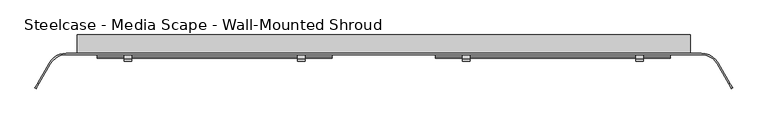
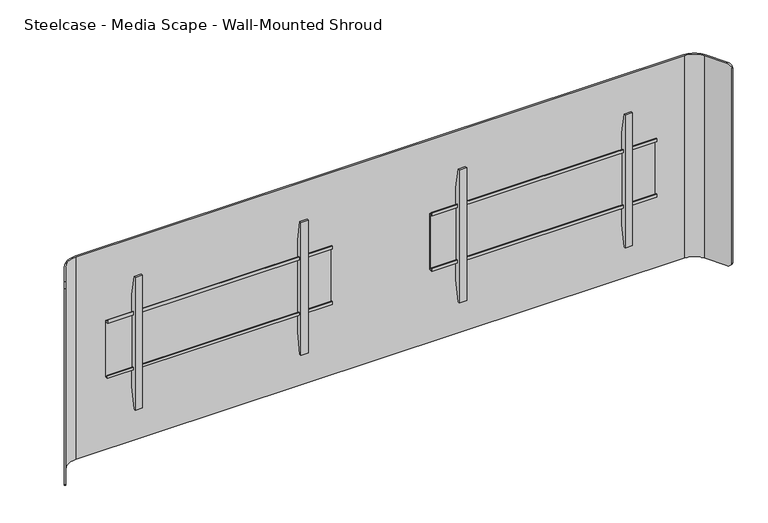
"""IFC4 building model written with IfcOpenShell, lengths in millimetres: furniture geometry, Steelcase - Media Scape - Wall-Mounted Shroud : Dual - 46in with CODEC Case."""

from ifc_helpers import new_model, si_unit, frame, origin, place, context, project, spatial, polyline, circle_curve, outline, extrude, source, transform, mapped, element, save
from ifc_brep_helpers import plane_surface, cylinder_surface, revolved_surface, advanced_brep


def steelcase_media_scape_wall_mounted_shroud_3b4f5210(model_context):
    return source(origin(), model_context, "Body", "SolidModel", [
        extrude(outline(polyline([(1534.414, 1061.6247345), (1534.414, -1061.6247345), (912.1648167, -1061.6247345), (912.1648167, 1061.6247345), (1534.414, 1061.6247345)]), holes=[polyline([(1532.9407333, -1060.1006996), (1532.9407333, -999.6488663), (1470.9139516, -999.6488663), (1470.9139516, 998.0613663), (1532.9407333, 998.0613663), (1532.9407333, 1060.1006996), (913.6887789, 1060.1006996), (913.6887789, 998.0613663), (935.9772924, 998.0613663), (935.9772924, -999.6488663), (913.6887789, -999.6488663), (913.6887789, -1060.1006996), (1532.9407333, -1060.1006996)])]), frame((0.0, -25.4, 0.0), z_axis=(0.0, 1.0, 0.0), x_axis=(0.0, 0.0, 1.0)), (0.0, 0.0, 1.0), 63.5005882),
        extrude(outline(polyline([(-42.4942785, 1326.5504726), (-42.4942785, 1338.5645649), (-39.8272175, 1338.5645649), (-39.8272175, 1329.217461), (-29.9720009, 1329.217461), (-29.9720009, 1114.8922438), (-42.3164551, 1114.8922438), (-42.3164551, 1125.8142515), (-39.649394, 1125.8142515), (-39.649394, 1117.557052), (-32.6531824, 1117.557052), (-32.6531824, 1326.5504726), (-42.4942785, 1326.5504726)])), frame((179.451, 0.0, 0.0), z_axis=(1.0, 0.0, 0.0), x_axis=(0.0, 1.0, 0.0)), (0.0, 0.0, 1.0), 812.8),
        extrude(outline(polyline([(-32.6531824, 1397.4971148), (-32.6531824, 1045.6825607), (-46.5049349, 968.0546949), (-53.3399828, 968.0546949), (-53.3399828, 1476.0547192), (-46.5050076, 1476.0547192), (-32.6531824, 1397.4971148)])), frame((273.052426, 0.0, 0.0), z_axis=(1.0, 0.0, 0.0), x_axis=(0.0, 1.0, 0.0)), (0.0, 0.0, 1.0), 26.1592872),
        extrude(outline(polyline([(-32.6531824, 1397.4971148), (-32.6531824, 1045.6825607), (-46.5049349, 968.0546949), (-53.3399828, 968.0546949), (-53.3399828, 1476.0547192), (-46.5050076, 1476.0547192), (-32.6531824, 1397.4971148)])), frame((872.4902868, 0.0, 0.0), z_axis=(1.0, 0.0, 0.0), x_axis=(0.0, 1.0, 0.0)), (0.0, 0.0, 1.0), 26.1592872),
        extrude(outline(polyline([(-42.4942785, 1326.5504726), (-42.4942785, 1338.5645649), (-39.8272175, 1338.5645649), (-39.8272175, 1329.217461), (-29.9720009, 1329.217461), (-29.9720009, 1114.8922438), (-42.3164551, 1114.8922438), (-42.3164551, 1125.8142515), (-39.649394, 1125.8142515), (-39.649394, 1117.557052), (-32.6531824, 1117.557052), (-32.6531824, 1326.5504726), (-42.4942785, 1326.5504726)])), frame((-992.251, 0.0, 0.0), z_axis=(1.0, 0.0, 0.0), x_axis=(0.0, 1.0, 0.0)), (0.0, 0.0, 1.0), 812.8),
        extrude(outline(polyline([(-32.6531824, 1397.4971148), (-32.6531824, 1045.6825607), (-46.5049349, 968.0546949), (-53.3399828, 968.0546949), (-53.3399828, 1476.0547192), (-46.5050076, 1476.0547192), (-32.6531824, 1397.4971148)])), frame((-299.2117132, 0.0, 0.0), z_axis=(1.0, 0.0, 0.0), x_axis=(0.0, 1.0, 0.0)), (0.0, 0.0, 1.0), 26.1592872),
        extrude(outline(polyline([(-32.6531824, 1397.4971148), (-32.6531824, 1045.6825607), (-46.5049349, 968.0546949), (-53.3399828, 968.0546949), (-53.3399828, 1476.0547192), (-46.5050076, 1476.0547192), (-32.6531824, 1397.4971148)])), frame((-898.649574, 0.0, 0.0), z_axis=(1.0, 0.0, 0.0), x_axis=(0.0, 1.0, 0.0)), (0.0, 0.0, 1.0), 26.1592872),
        advanced_brep(
        [(-1154.5586135, -61.722, 1610.614), (-1099.566002, -29.9720009, 1610.614), (1099.566, -29.9720009, 1610.614), (1154.5586135, -61.722, 1610.614), (1194.679586, -131.2135628, 1610.614), (1198.6390541, -128.9275628, 1610.614), (1158.5180817, -59.436, 1610.614), (1099.566002, -25.4, 1610.614), (-1099.566, -25.4, 1610.614), (-1158.5180817, -59.436, 1610.614), (-1198.6421659, -128.9329524, 1610.614), (-1194.6826977, -131.2189524, 1610.614), (-1158.5180817, -59.436, 835.914), (-1099.566002, -25.4, 835.914), (1099.566, -25.4, 835.914), (1158.5180817, -59.436, 835.914), (1198.6906629, -129.0169518, 835.914), (1194.7311948, -131.3029518, 835.914), (1154.5586135, -61.722, 835.914), (1099.566002, -29.9720009, 835.914), (-1099.566, -29.9720009, 835.914), (-1154.5586135, -61.722, 835.914), (-1194.7454014, -131.3275584, 835.914), (-1198.7048695, -129.0415584, 835.914), (-1208.2090632, -145.5033047, 849.5242766), (-1208.2090632, -145.5033047, 1596.6227735), (-1204.2495951, -147.7893047, 1596.6227735), (-1204.2495951, -147.7893047, 849.5242766), (1204.2270866, -147.7503189, 849.4756893), (1204.2270866, -147.7503189, 1596.7433849), (1208.1865547, -145.4643189, 1596.7433849), (1208.1865547, -145.4643189, 849.4756893)],
        [
            (0, 1, circle_curve(frame((-1099.566002, -93.4719991, 1610.614), z_axis=(0.0, 0.0, -1.0), x_axis=(0.0, 1.0, 0.0)), 63.4999981)),
            (1, 2),
            (2, 3, circle_curve(frame((1099.566002, -93.4719991, 1610.614), z_axis=(0.0, 0.0, -1.0), x_axis=(0.0, 1.0, 0.0)), 63.4999981)),
            (3, 4),
            (4, 5),
            (5, 6),
            (6, 7, circle_curve(frame((1099.5660004, -93.472, 1610.614), z_axis=(0.0, 0.0, 1.0), x_axis=(0.0, 1.0, 0.0)), 68.072)),
            (7, 8),
            (8, 9, circle_curve(frame((-1099.5660004, -93.472, 1610.614), z_axis=(0.0, 0.0, 1.0), x_axis=(0.0, 1.0, 0.0)), 68.072)),
            (9, 10),
            (10, 11),
            (11, 0),
            (12, 13, circle_curve(frame((-1099.5660004, -93.472, 835.914), z_axis=(0.0, 0.0, -1.0), x_axis=(0.0, 1.0, 0.0)), 68.072)),
            (13, 14),
            (14, 15, circle_curve(frame((1099.5660004, -93.472, 835.914), z_axis=(0.0, 0.0, -1.0), x_axis=(0.0, 1.0, 0.0)), 68.072)),
            (15, 16),
            (16, 17),
            (17, 18),
            (18, 19, circle_curve(frame((1099.566002, -93.4719991, 835.914), z_axis=(0.0, 0.0, 1.0), x_axis=(0.0, 1.0, 0.0)), 63.4999981)),
            (19, 20),
            (20, 21, circle_curve(frame((-1099.566002, -93.4719991, 835.914), z_axis=(0.0, 0.0, 1.0), x_axis=(0.0, 1.0, 0.0)), 63.4999981)),
            (21, 22),
            (22, 23),
            (23, 12),
            (0, 21),
            (20, 1),
            (8, 13),
            (12, 9),
            (23, 24, circle_curve(frame((-1198.7048695, -129.0415584, 855.9928872), z_axis=(-0.8660254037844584, 0.49999999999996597, 0.0), x_axis=(-0.49999999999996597, -0.8660254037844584, 0.0)), 20.0788872)),
            (24, 25),
            (25, 10, circle_curve(frame((-1198.6421659, -128.9329524, 1590.5351128), z_axis=(-0.8660254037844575, 0.49999999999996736, 0.0), x_axis=(-0.49999999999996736, -0.8660254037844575, 0.0)), 20.0788872)),
            (26, 25),
            (24, 27),
            (27, 26),
            (11, 26, circle_curve(frame((-1194.6826977, -131.2189524, 1590.5351128), z_axis=(0.8660254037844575, -0.49999999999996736, 0.0), x_axis=(-0.49999999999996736, -0.8660254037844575, 0.0)), 20.0788872)),
            (27, 22, circle_curve(frame((-1194.7454014, -131.3275584, 855.9928872), z_axis=(0.8660254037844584, -0.49999999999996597, 0.0), x_axis=(-0.49999999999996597, -0.8660254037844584, 0.0)), 20.0788872)),
            (7, 14),
            (19, 2),
            (3, 18),
            (17, 28, circle_curve(frame((1194.7311948, -131.3029518, 855.9928872), z_axis=(-0.8660254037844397, -0.49999999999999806, 0.0), x_axis=(0.49999999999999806, -0.8660254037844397, 0.0)), 20.0788872)),
            (28, 29),
            (29, 4, circle_curve(frame((1194.679586, -131.2135628, 1590.5351128), z_axis=(-0.8660254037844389, -0.4999999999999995, 0.0), x_axis=(0.4999999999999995, -0.8660254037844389, 0.0)), 20.0788872)),
            (30, 29),
            (28, 31),
            (31, 30),
            (15, 6),
            (5, 30, circle_curve(frame((1198.6390541, -128.9275628, 1590.5351128), z_axis=(0.8660254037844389, 0.4999999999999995, 0.0), x_axis=(0.4999999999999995, -0.8660254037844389, 0.0)), 20.0788872)),
            (31, 16, circle_curve(frame((1198.6906629, -129.0169518, 855.9928872), z_axis=(0.8660254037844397, 0.49999999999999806, 0.0), x_axis=(0.49999999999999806, -0.8660254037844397, 0.0)), 20.0788872)),
        ],
        [
            plane_surface(frame((-1099.566002, -29.9720009, 1610.614), z_axis=(0.0, 0.0, 1.0), x_axis=(1.0, 0.0, 0.0))),
            plane_surface(frame((-1099.566002, -29.9720009, 835.914), z_axis=(0.0, 0.0, -1.0), x_axis=(-1.0, 0.0, 0.0))),
            revolved_surface(polyline([(-1099.566002, -29.972001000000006, 835.914), (-1099.566002, -29.972001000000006, 1610.614)]), (-1099.566002, -93.4719991, 835.914), (0.0, 0.0, -1.0)),
            cylinder_surface(frame((-1099.5660004, -93.472, 835.914), z_axis=(0.0, 0.0, 1.0), x_axis=(0.0, 1.0, 0.0)), 68.072),
            plane_surface(frame((-1158.5180817, -59.436, 1610.614), z_axis=(-0.8660254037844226, 0.5000000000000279, 0.0), x_axis=(0.0, 0.0, -1.0))),
            plane_surface(frame((-1208.2090632, -145.5033047, 1610.614), z_axis=(-0.5000000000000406, -0.8660254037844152, 0.0), x_axis=(0.0, 0.0, -1.0))),
            plane_surface(frame((-1204.2495951, -147.7893047, 1610.614), z_axis=(0.8660254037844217, -0.5000000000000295, 0.0), x_axis=(0.0, 0.0, -1.0))),
            plane_surface(frame((1099.566, -25.4, 1610.614), z_axis=(0.0, 1.0, 0.0), x_axis=(0.0, 0.0, -1.0))),
            plane_surface(frame((-1099.566, -29.9720009, 1610.614), z_axis=(0.0, -1.0, 0.0), x_axis=(0.0, 0.0, -1.0))),
            plane_surface(frame((1154.5586135, -61.722, 1610.614), z_axis=(-0.8660254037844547, -0.4999999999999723, 0.0), x_axis=(0.0, 0.0, -1.0))),
            plane_surface(frame((1204.2270866, -147.7503189, 1610.614), z_axis=(0.4999999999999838, -0.866025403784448, 0.0), x_axis=(0.0, 0.0, -1.0))),
            plane_surface(frame((1208.1865547, -145.4643189, 1610.614), z_axis=(0.8660254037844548, 0.49999999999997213, 0.0), x_axis=(0.0, 0.0, -1.0))),
            cylinder_surface(frame((1099.5660004, -93.472, 835.914), z_axis=(0.0, 0.0, 1.0), x_axis=(0.0, 1.0, 0.0)), 68.072),
            revolved_surface(polyline([(1099.566002, -29.972001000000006, 835.914), (1099.566002, -29.972001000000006, 1610.614)]), (1099.566002, -93.4719991, 835.914), (0.0, 0.0, -1.0)),
            cylinder_surface(frame((-1194.6826977, -131.2189524, 1590.5351128), z_axis=(0.8660254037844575, -0.49999999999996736, 0.0), x_axis=(-0.49999999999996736, -0.8660254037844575, 0.0)), 20.0788872),
            cylinder_surface(frame((-1194.7454014, -131.3275584, 855.9928872), z_axis=(0.8660254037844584, -0.49999999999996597, 0.0), x_axis=(-0.49999999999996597, -0.8660254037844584, 0.0)), 20.0788872),
            cylinder_surface(frame((1209.7864297, -122.4916225, 1590.5351128), z_axis=(0.8660254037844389, 0.4999999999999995, 0.0), x_axis=(0.4999999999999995, -0.8660254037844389, 0.0)), 20.0788872),
            cylinder_surface(frame((1206.9789695, -124.2316958, 855.9928872), z_axis=(0.8660254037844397, 0.49999999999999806, 0.0), x_axis=(0.49999999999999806, -0.8660254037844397, 0.0)), 20.0788872),
        ],
        [
            (0, [[1, 2, 3, 4, 5, 6, 7, 8, 9, 10, 11, 12]]),
            (1, [[13, 14, 15, 16, 17, 18, 19, 20, 21, 22, 23, 24]]),
            (2, [[-1, 25, -21, 26]]),
            (3, [[-9, 27, -13, 28]]),
            (4, [[-28, -24, 29, 30, 31, -10]]),
            (5, [[32, -30, 33, 34]]),
            (6, [[-25, -12, 35, -34, 36, -22]]),
            (7, [[-8, 37, -14, -27]]),
            (8, [[-2, -26, -20, 38]]),
            (9, [[39, -18, 40, 41, 42, -4]]),
            (10, [[43, -41, 44, 45]]),
            (11, [[46, -6, 47, -45, 48, -16]]),
            (12, [[-7, -46, -15, -37]]),
            (13, [[-3, -38, -19, -39]]),
            (14, [[-11, -31, -32, -35]]),
            (15, [[-23, -36, -33, -29]]),
            (16, [[-5, -42, -43, -47]]),
            (17, [[-17, -48, -44, -40]]),
        ],
    ),
    ])


if __name__ == "__main__":
    model = new_model("IFC4")
    model_context = context("Model", 3, world=origin())
    ifc_project = project(units=[si_unit("LENGTHUNIT", "METRE", prefix="MILLI")], contexts=[model_context])
    site = spatial("IfcSite", under=ifc_project)
    building = spatial("IfcBuilding", under=site)
    placement = place(None, origin())
    steelcase_media_scape_wall_mounted_shroud_shape = steelcase_media_scape_wall_mounted_shroud_3b4f5210(model_context)
    element("IfcFurniture", 1, ObjectType="Steelcase - Media Scape - Wall-Mounted Shroud : Dual - 46in with CODEC Case", at=placement, inside=building, context=model_context, shape_type="MappedRepresentation", body=[
        mapped(steelcase_media_scape_wall_mounted_shroud_shape, transform((0.0, 0.0, 0.0), x_axis=(1.0, 0.0, 0.0), y_axis=(0.0, 1.0, 0.0), z_axis=(0.0, 0.0, 1.0))),
    ])
    save(model, "model.ifc")
